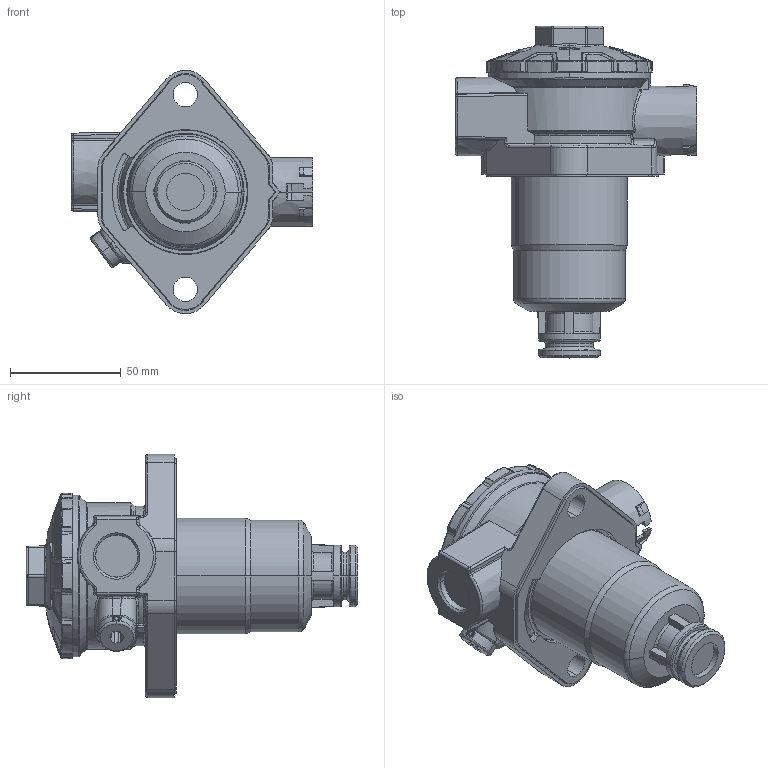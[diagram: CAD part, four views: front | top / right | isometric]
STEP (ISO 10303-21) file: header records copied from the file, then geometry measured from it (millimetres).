
FILE_DESCRIPTION((''),'2;1');
FILE_NAME('1000518044','2024-08-09T08:07:35',('a.heinl'),(''),'CREO PARAMETRIC BY PTC INC, 2023254','CREO PARAMETRIC BY PTC INC, 2023254','');
FILE_SCHEMA(('AUTOMOTIVE_DESIGN { 1 0 10303 214 1 1 1 1 }'));
Length unit declared in the file: millimetre
Products named in the file (1): 1000518044
Bounding box: 109 x 149.95 x 110 mm (x, y, z)
Volume: 388461.3 mm3; surface area: 55147.8 mm2
Topology: 1 solids, 2 shells, 1218 faces, 3138 edges, 1941 vertices
Faces by surface type: plane 413, bspline 312, cylinder 238, torus 117, cone 100, sphere 23, extrusion 15
Entity records: 59574 total; most frequent: CARTESIAN_POINT 23986, ORIENTED_EDGE 6220, DIRECTION 4376, PRESENTATION_STYLE_ASSIGNMENT 3111, STYLED_ITEM 3111, CURVE_STYLE 3110, EDGE_CURVE 3110, VERTEX_POINT 1941
